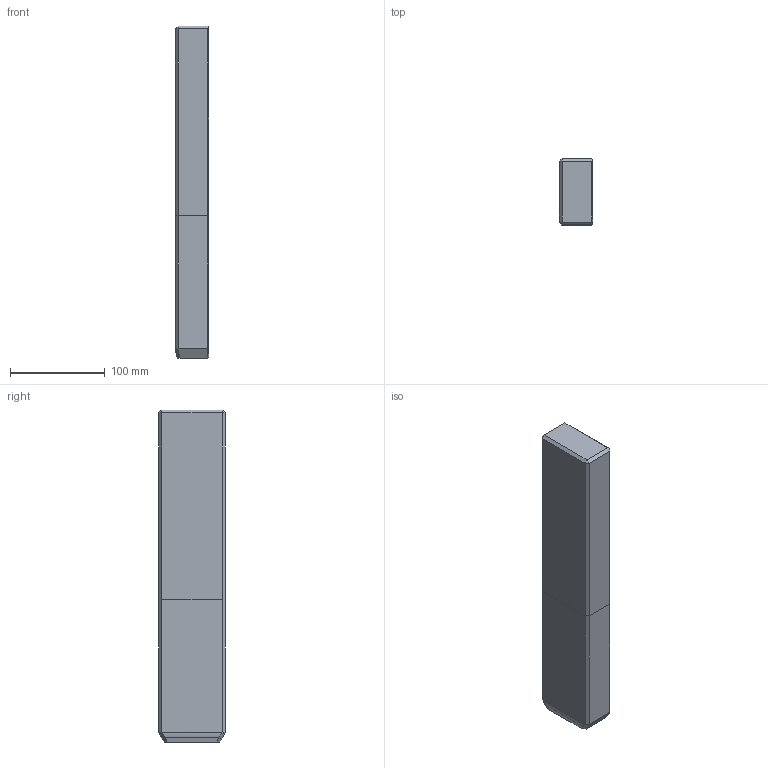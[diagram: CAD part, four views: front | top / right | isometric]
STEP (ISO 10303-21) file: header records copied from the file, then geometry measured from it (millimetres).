
FILE_DESCRIPTION((''),'2;1');
FILE_NAME('','2010-08-30T18:06:04+09:00',('misumi'),(''),'M/STEP i/f 1R2-14','CADmeister v5.1','');
FILE_SCHEMA(('AUTOMOTIVE_DESIGN'));
Length unit declared in the file: millimetre
Products named in the file (1): OGG70-350
Bounding box: 35 x 70 x 350 mm (x, y, z)
Volume: 850878.2 mm3; surface area: 75888.7 mm2
Topology: 1 solids, 1 shells, 33 faces, 76 edges, 45 vertices
Faces by surface type: plane 27, bspline 5, cylinder 1
Entity records: 1524 total; most frequent: CARTESIAN_POINT 746, ORIENTED_EDGE 152, DIRECTION 118, EDGE_CURVE 76, LINE 60, VECTOR 60, VERTEX_POINT 45, EDGE_LOOP 33
